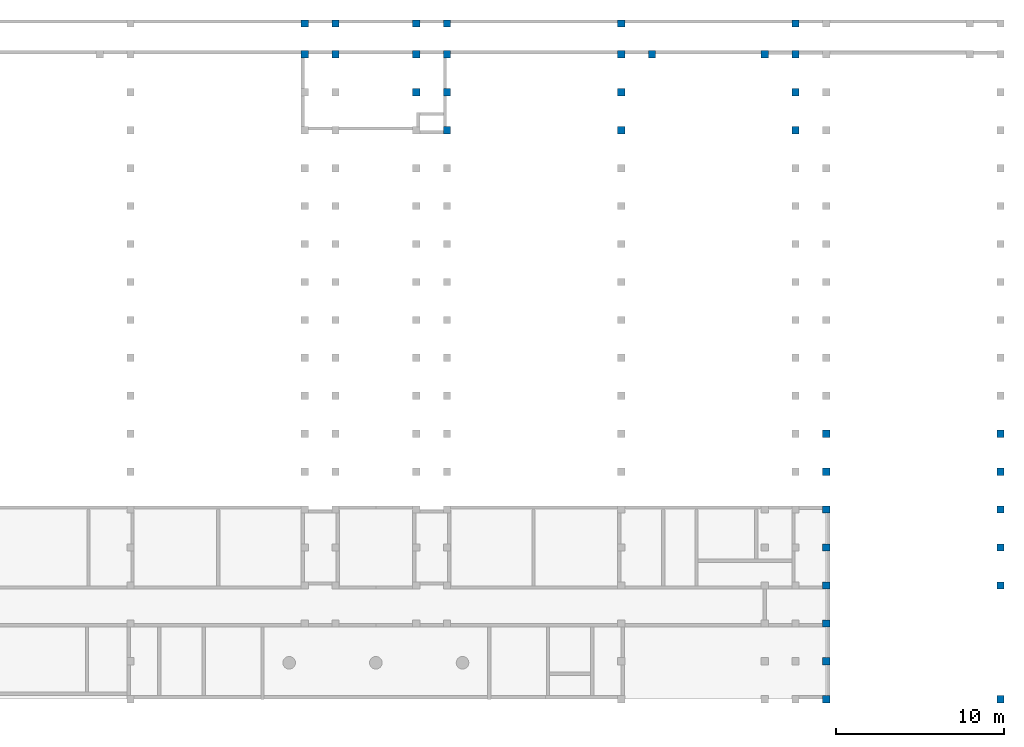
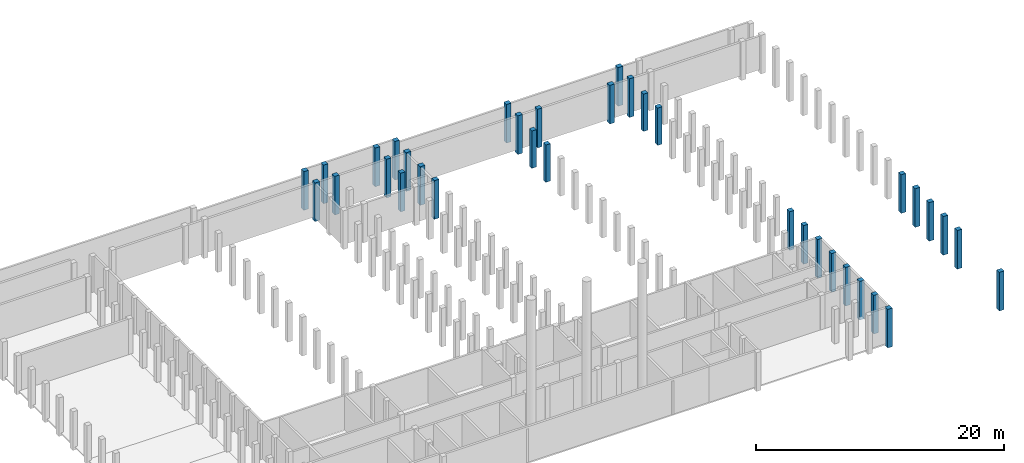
# One storey, part 6 of 9: 35 columns.
"""IFC2X3 building model written with IfcOpenShell, lengths in millimetres."""

from ifc_helpers import new_model, entity, si_unit, converted_unit, derived_unit, direction, frame, frame_2d, origin, origin_2d_with_axis, place, context, subcontext, project, spatial, rectangle, extrude, source, transform, mapped, material, type_object, type_shapes, element, save


model = new_model("IFC2X3")

# Units and contexts
model_context = context("Model", 3, precision=0.01, world=origin(), true_north=direction((6.12303176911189e-17, 1.0)))
body_context = subcontext(model_context, "Body", "Model", "MODEL_VIEW")
ifc_project = project(units=[si_unit("LENGTHUNIT", "METRE", prefix="MILLI"), si_unit("AREAUNIT", "SQUARE_METRE"), si_unit("VOLUMEUNIT", "CUBIC_METRE"), converted_unit("PLANEANGLEUNIT", "DEGREE", entity("IfcRatioMeasure", 0.0174532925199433), si_unit("PLANEANGLEUNIT", "RADIAN"), dimensions=[0, 0, 0, 0, 0, 0, 0]), si_unit("MASSUNIT", "GRAM", prefix="KILO"), derived_unit("MASSDENSITYUNIT", [(si_unit("MASSUNIT", "GRAM", prefix="KILO"), 1), (si_unit("LENGTHUNIT", "METRE"), -3)]), derived_unit("MOMENTOFINERTIAUNIT", [(si_unit("LENGTHUNIT", "METRE"), 4)]), si_unit("TIMEUNIT", "SECOND"), si_unit("FREQUENCYUNIT", "HERTZ"), si_unit("THERMODYNAMICTEMPERATUREUNIT", "DEGREE_CELSIUS"), derived_unit("THERMALTRANSMITTANCEUNIT", [(si_unit("MASSUNIT", "GRAM", prefix="KILO"), 1), (si_unit("THERMODYNAMICTEMPERATUREUNIT", "KELVIN"), -1), (si_unit("TIMEUNIT", "SECOND"), -3)]), derived_unit("VOLUMETRICFLOWRATEUNIT", [(si_unit("LENGTHUNIT", "METRE"), 3), (si_unit("TIMEUNIT", "SECOND"), -1)]), si_unit("ELECTRICCURRENTUNIT", "AMPERE"), si_unit("ELECTRICVOLTAGEUNIT", "VOLT"), si_unit("POWERUNIT", "WATT"), si_unit("FORCEUNIT", "NEWTON", prefix="KILO"), si_unit("ILLUMINANCEUNIT", "LUX"), si_unit("LUMINOUSFLUXUNIT", "LUMEN"), si_unit("LUMINOUSINTENSITYUNIT", "CANDELA"), derived_unit("USERDEFINED", [(si_unit("MASSUNIT", "GRAM", prefix="KILO"), -1), (si_unit("LENGTHUNIT", "METRE"), -2), (si_unit("TIMEUNIT", "SECOND"), 3), (si_unit("LUMINOUSFLUXUNIT", "LUMEN"), 1)]), derived_unit("LINEARVELOCITYUNIT", [(si_unit("LENGTHUNIT", "METRE"), 1), (si_unit("TIMEUNIT", "SECOND"), -1)]), si_unit("PRESSUREUNIT", "PASCAL"), derived_unit("USERDEFINED", [(si_unit("LENGTHUNIT", "METRE"), -2), (si_unit("MASSUNIT", "GRAM", prefix="KILO"), 1), (si_unit("TIMEUNIT", "SECOND"), -2)]), derived_unit("LINEARFORCEUNIT", [(si_unit("MASSUNIT", "GRAM", prefix="KILO"), 1), (si_unit("LENGTHUNIT", "METRE"), 1), (si_unit("TIMEUNIT", "SECOND"), -2), (si_unit("LENGTHUNIT", "METRE"), -1)]), derived_unit("PLANARFORCEUNIT", [(si_unit("MASSUNIT", "GRAM", prefix="KILO"), 1), (si_unit("LENGTHUNIT", "METRE"), 1), (si_unit("TIMEUNIT", "SECOND"), -2), (si_unit("LENGTHUNIT", "METRE"), -2)])], contexts=[model_context])

# Site, building, storey
site_placement = place(None, frame((10627.5135316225, 21939.0796949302, 0.0)))
site = spatial("IfcSite", under=ifc_project, at=site_placement, Name="Default", CompositionType="ELEMENT")
building_placement = place(site_placement, origin())
building = spatial("IfcBuilding", under=site, at=building_placement, CompositionType="ELEMENT")
storey_placement = place(building_placement, frame((0.0, 0.0, -3500.0)))
storey = spatial("IfcBuildingStorey", under=building, at=storey_placement, Name="R-1", CompositionType="ELEMENT", Elevation=-3500.0)

# Columns
ifc_material = material(Name="Concrete, Precast Smooth, Light Grey")
column_type_1 = type_object("IfcColumnType", Name="M_Precast-Square Column:430x430", PredefinedType="COLUMN", material=ifc_material)
shared_shape_1 = source(origin(), body_context, "Body", "SweptSolid", [
    extrude(rectangle(XDim=430.0, YDim=429.999999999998, at=frame_2d((2.1600499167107e-12, 0.0), x_axis=(1.0, 0.0))), frame((22342.4864683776, 16480.9203050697, -3800.0), z_axis=(0.0, 0.0, 1.0), x_axis=(0.0, -1.0, 0.0)), (0.0, 0.0, 1.0), 3800.0),
])
type_shapes(column_type_1, [shared_shape_1])
column_1_placement = place(storey_placement, frame((0.0, 0.0, 3500.0)))
element("IfcColumn", 1, at=column_1_placement, inside=storey, type_object=column_type_1, material=ifc_material, Name="M_Precast-Square Column:430x430", ObjectType="M_Precast-Square Column:430x430", context=body_context, shape_type="MappedRepresentation", body=[
    mapped(shared_shape_1, transform((0.0, 0.0, 0.0), scale=1.0)),
])
column_type_2 = type_object("IfcColumnType", Name="M_Precast-Square Column:430x430", PredefinedType="COLUMN", material=ifc_material)
shared_shape_2 = source(origin(), body_context, "Body", "SweptSolid", [
    extrude(rectangle(XDim=430.0, YDim=429.999999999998, at=frame_2d((2.1600499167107e-12, 0.0), x_axis=(1.0, 0.0))), frame((22342.4864683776, 18310.9203050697, -3800.0), z_axis=(0.0, 0.0, 1.0), x_axis=(0.0, -1.0, 0.0)), (0.0, 0.0, 1.0), 3800.0),
])
type_shapes(column_type_2, [shared_shape_2])
column_2_placement = place(storey_placement, frame((0.0, 0.0, 3500.0)))
element("IfcColumn", 2, at=column_2_placement, inside=storey, type_object=column_type_2, material=ifc_material, Name="M_Precast-Square Column:430x430", ObjectType="M_Precast-Square Column:430x430", context=body_context, shape_type="MappedRepresentation", body=[
    mapped(shared_shape_2, transform((0.0, 0.0, 0.0), scale=1.0)),
])
column_type_3 = type_object("IfcColumnType", Name="M_Precast-Square Column:430x430", PredefinedType="COLUMN", material=ifc_material)
shared_shape_3 = source(origin(), body_context, "Body", "SweptSolid", [
    extrude(rectangle(XDim=430.0, YDim=429.999999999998, at=origin_2d_with_axis()), frame((24172.4864683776, 16480.9203050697, -3800.0), z_axis=(0.0, 0.0, 1.0), x_axis=(0.0, -1.0, 0.0)), (0.0, 0.0, 1.0), 3800.0),
])
type_shapes(column_type_3, [shared_shape_3])
column_3_placement = place(storey_placement, frame((0.0, 0.0, 3500.0)))
element("IfcColumn", 3, at=column_3_placement, inside=storey, type_object=column_type_3, material=ifc_material, Name="M_Precast-Square Column:430x430", ObjectType="M_Precast-Square Column:430x430", context=body_context, shape_type="MappedRepresentation", body=[
    mapped(shared_shape_3, transform((0.0, 0.0, 0.0), scale=1.0)),
])
column_type_4 = type_object("IfcColumnType", Name="M_Precast-Square Column:430x430", PredefinedType="COLUMN", material=ifc_material)
shared_shape_4 = source(origin(), body_context, "Body", "SweptSolid", [
    extrude(rectangle(XDim=430.0, YDim=429.999999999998, at=origin_2d_with_axis()), frame((24172.4864683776, 18310.9203050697, -3800.0), z_axis=(0.0, 0.0, 1.0), x_axis=(0.0, -1.0, 0.0)), (0.0, 0.0, 1.0), 3800.0),
])
type_shapes(column_type_4, [shared_shape_4])
column_4_placement = place(storey_placement, frame((0.0, 0.0, 3500.0)))
element("IfcColumn", 4, at=column_4_placement, inside=storey, type_object=column_type_4, material=ifc_material, Name="M_Precast-Square Column:430x430", ObjectType="M_Precast-Square Column:430x430", context=body_context, shape_type="MappedRepresentation", body=[
    mapped(shared_shape_4, transform((0.0, 0.0, 0.0), scale=1.0)),
])
column_type_5 = type_object("IfcColumnType", Name="M_Precast-Square Column:430x430", PredefinedType="COLUMN", material=ifc_material)
shared_shape_5 = source(origin(), body_context, "Body", "SweptSolid", [
    extrude(rectangle(XDim=430.0, YDim=430.000000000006, at=frame_2d((-1.08002495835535e-12, 0.0), x_axis=(1.0, 0.0))), frame((51572.4864683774, 16480.9203050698, -3800.0), z_axis=(0.0, 0.0, 1.0), x_axis=(0.0, -1.0, 0.0)), (0.0, 0.0, 1.0), 3800.0),
])
type_shapes(column_type_5, [shared_shape_5])
column_5_placement = place(storey_placement, frame((0.0, 0.0, 3500.0)))
element("IfcColumn", 5, at=column_5_placement, inside=storey, type_object=column_type_5, material=ifc_material, Name="M_Precast-Square Column:430x430", ObjectType="M_Precast-Square Column:430x430", context=body_context, shape_type="MappedRepresentation", body=[
    mapped(shared_shape_5, transform((0.0, 0.0, 0.0), scale=1.0)),
])
column_type_6 = type_object("IfcColumnType", Name="M_Precast-Square Column:430x430", PredefinedType="COLUMN", material=ifc_material)
shared_shape_6 = source(origin(), body_context, "Body", "SweptSolid", [
    extrude(rectangle(XDim=430.0, YDim=430.000000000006, at=frame_2d((1.08002495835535e-12, -8.66862137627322e-12), x_axis=(1.0, 0.0))), frame((51572.4864683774, 14220.9203050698, -3800.0), z_axis=(0.0, 0.0, 1.0), x_axis=(0.0, -1.0, 0.0)), (0.0, 0.0, 1.0), 3670.0),
])
type_shapes(column_type_6, [shared_shape_6])
column_6_placement = place(storey_placement, frame((0.0, 0.0, 3500.0)))
element("IfcColumn", 6, at=column_6_placement, inside=storey, type_object=column_type_6, material=ifc_material, Name="M_Precast-Square Column:430x430", ObjectType="M_Precast-Square Column:430x430", context=body_context, shape_type="MappedRepresentation", body=[
    mapped(shared_shape_6, transform((0.0, 0.0, 0.0), scale=1.0)),
])
column_type_7 = type_object("IfcColumnType", Name="M_Precast-Square Column:430x430", PredefinedType="COLUMN", material=ifc_material)
shared_shape_7 = source(origin(), body_context, "Body", "SweptSolid", [
    extrude(rectangle(XDim=430.0, YDim=430.000000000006, at=frame_2d((-1.08002495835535e-12, 0.0), x_axis=(1.0, 0.0))), frame((51572.4864683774, 18310.9203050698, -3800.0), z_axis=(0.0, 0.0, 1.0), x_axis=(0.0, -1.0, 0.0)), (0.0, 0.0, 1.0), 3800.0),
])
type_shapes(column_type_7, [shared_shape_7])
column_7_placement = place(storey_placement, frame((0.0, 0.0, 3500.0)))
element("IfcColumn", 7, at=column_7_placement, inside=storey, type_object=column_type_7, material=ifc_material, Name="M_Precast-Square Column:430x430", ObjectType="M_Precast-Square Column:430x430", context=body_context, shape_type="MappedRepresentation", body=[
    mapped(shared_shape_7, transform((0.0, 0.0, 0.0), scale=1.0)),
])
column_type_8 = type_object("IfcColumnType", Name="M_Precast-Square Column:430x430", PredefinedType="COLUMN", material=ifc_material)
shared_shape_8 = source(origin(), body_context, "Body", "SweptSolid", [
    extrude(rectangle(XDim=430.0, YDim=430.000000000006, at=frame_2d((-1.08002495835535e-12, -8.66862137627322e-12), x_axis=(1.0, 0.0))), frame((51572.4864683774, 11960.9203050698, -3800.0), z_axis=(0.0, 0.0, 1.0), x_axis=(0.0, -1.0, 0.0)), (0.0, 0.0, 1.0), 3670.0),
])
type_shapes(column_type_8, [shared_shape_8])
column_8_placement = place(storey_placement, frame((0.0, 0.0, 3500.0)))
element("IfcColumn", 8, at=column_8_placement, inside=storey, type_object=column_type_8, material=ifc_material, Name="M_Precast-Square Column:430x430", ObjectType="M_Precast-Square Column:430x430", context=body_context, shape_type="MappedRepresentation", body=[
    mapped(shared_shape_8, transform((0.0, 0.0, 0.0), scale=1.0)),
])
column_type_9 = type_object("IfcColumnType", Name="M_Precast-Square Column:430x430", PredefinedType="COLUMN", material=ifc_material)
shared_shape_9 = source(origin(), body_context, "Body", "SweptSolid", [
    extrude(rectangle(XDim=430.0, YDim=430.000000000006, at=frame_2d((-1.08002495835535e-12, 0.0), x_axis=(1.0, 0.0))), frame((49742.4864683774, 16480.9203050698, -3800.0), z_axis=(0.0, 0.0, 1.0), x_axis=(0.0, -1.0, 0.0)), (0.0, 0.0, 1.0), 3800.0),
])
type_shapes(column_type_9, [shared_shape_9])
column_9_placement = place(storey_placement, frame((0.0, 0.0, 3500.0)))
element("IfcColumn", 9, at=column_9_placement, inside=storey, type_object=column_type_9, material=ifc_material, Name="M_Precast-Square Column:430x430", ObjectType="M_Precast-Square Column:430x430", context=body_context, shape_type="MappedRepresentation", body=[
    mapped(shared_shape_9, transform((0.0, 0.0, 0.0), scale=1.0)),
])
column_type_10 = type_object("IfcColumnType", Name="M_Precast-Square Column:430x430", PredefinedType="COLUMN", material=ifc_material)
shared_shape_10 = source(origin(), body_context, "Body", "SweptSolid", [
    extrude(rectangle(XDim=430.0, YDim=430.000000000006, at=frame_2d((-1.08002495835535e-12, 0.0), x_axis=(1.0, 0.0))), frame((41192.4864683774, 16480.9203050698, -3800.0), z_axis=(0.0, 0.0, 1.0), x_axis=(0.0, -1.0, 0.0)), (0.0, 0.0, 1.0), 3800.0),
])
type_shapes(column_type_10, [shared_shape_10])
column_10_placement = place(storey_placement, frame((0.0, 0.0, 3500.0)))
element("IfcColumn", 10, at=column_10_placement, inside=storey, type_object=column_type_10, material=ifc_material, Name="M_Precast-Square Column:430x430", ObjectType="M_Precast-Square Column:430x430", context=body_context, shape_type="MappedRepresentation", body=[
    mapped(shared_shape_10, transform((0.0, 0.0, 0.0), scale=1.0)),
])
column_type_11 = type_object("IfcColumnType", Name="M_Precast-Square Column:430x430", PredefinedType="COLUMN", material=ifc_material)
shared_shape_11 = source(origin(), body_context, "Body", "SweptSolid", [
    extrude(rectangle(XDim=430.0, YDim=430.000000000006, at=frame_2d((1.08002495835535e-12, 0.0), x_axis=(1.0, 0.0))), frame((41192.4864683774, 14220.9203050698, -3800.0), z_axis=(0.0, 0.0, 1.0), x_axis=(0.0, -1.0, 0.0)), (0.0, 0.0, 1.0), 3670.0),
])
type_shapes(column_type_11, [shared_shape_11])
column_11_placement = place(storey_placement, frame((0.0, 0.0, 3500.0)))
element("IfcColumn", 11, at=column_11_placement, inside=storey, type_object=column_type_11, material=ifc_material, Name="M_Precast-Square Column:430x430", ObjectType="M_Precast-Square Column:430x430", context=body_context, shape_type="MappedRepresentation", body=[
    mapped(shared_shape_11, transform((0.0, 0.0, 0.0), scale=1.0)),
])
column_type_12 = type_object("IfcColumnType", Name="M_Precast-Square Column:430x430", PredefinedType="COLUMN", material=ifc_material)
shared_shape_12 = source(origin(), body_context, "Body", "SweptSolid", [
    extrude(rectangle(XDim=430.0, YDim=430.000000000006, at=frame_2d((-1.08002495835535e-12, 0.0), x_axis=(1.0, 0.0))), frame((41192.4864683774, 18310.9203050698, -3800.0), z_axis=(0.0, 0.0, 1.0), x_axis=(0.0, -1.0, 0.0)), (0.0, 0.0, 1.0), 3800.0),
])
type_shapes(column_type_12, [shared_shape_12])
column_12_placement = place(storey_placement, frame((0.0, 0.0, 3500.0)))
element("IfcColumn", 12, at=column_12_placement, inside=storey, type_object=column_type_12, material=ifc_material, Name="M_Precast-Square Column:430x430", ObjectType="M_Precast-Square Column:430x430", context=body_context, shape_type="MappedRepresentation", body=[
    mapped(shared_shape_12, transform((0.0, 0.0, 0.0), scale=1.0)),
])
column_type_13 = type_object("IfcColumnType", Name="M_Precast-Square Column:430x430", PredefinedType="COLUMN", material=ifc_material)
shared_shape_13 = source(origin(), body_context, "Body", "SweptSolid", [
    extrude(rectangle(XDim=430.0, YDim=430.000000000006, at=frame_2d((-1.08002495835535e-12, -8.66862137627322e-12), x_axis=(1.0, 0.0))), frame((41192.4864683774, 11960.9203050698, -3800.0), z_axis=(0.0, 0.0, 1.0), x_axis=(0.0, -1.0, 0.0)), (0.0, 0.0, 1.0), 3670.0),
])
type_shapes(column_type_13, [shared_shape_13])
column_13_placement = place(storey_placement, frame((0.0, 0.0, 3500.0)))
element("IfcColumn", 13, at=column_13_placement, inside=storey, type_object=column_type_13, material=ifc_material, Name="M_Precast-Square Column:430x430", ObjectType="M_Precast-Square Column:430x430", context=body_context, shape_type="MappedRepresentation", body=[
    mapped(shared_shape_13, transform((0.0, 0.0, 0.0), scale=1.0)),
])
column_type_14 = type_object("IfcColumnType", Name="M_Precast-Square Column:430x430", PredefinedType="COLUMN", material=ifc_material)
shared_shape_14 = source(origin(), body_context, "Body", "SweptSolid", [
    extrude(rectangle(XDim=430.0, YDim=429.999999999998, at=frame_2d((-1.08002495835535e-12, 4.33431068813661e-12), x_axis=(1.0, 0.0))), frame((30812.4864683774, 16480.9203050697, -3800.0), z_axis=(0.0, 0.0, 1.0), x_axis=(0.0, -1.0, 0.0)), (0.0, 0.0, 1.0), 3800.0),
])
type_shapes(column_type_14, [shared_shape_14])
column_14_placement = place(storey_placement, frame((0.0, 0.0, 3500.0)))
element("IfcColumn", 14, at=column_14_placement, inside=storey, type_object=column_type_14, material=ifc_material, Name="M_Precast-Square Column:430x430", ObjectType="M_Precast-Square Column:430x430", context=body_context, shape_type="MappedRepresentation", body=[
    mapped(shared_shape_14, transform((0.0, 0.0, 0.0), scale=1.0)),
])
column_type_15 = type_object("IfcColumnType", Name="M_Precast-Square Column:430x430", PredefinedType="COLUMN", material=ifc_material)
shared_shape_15 = source(origin(), body_context, "Body", "SweptSolid", [
    extrude(rectangle(XDim=430.0, YDim=429.999999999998, at=frame_2d((1.08002495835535e-12, 0.0), x_axis=(1.0, 0.0))), frame((30812.4864683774, 14220.9203050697, -3800.0), z_axis=(0.0, 0.0, 1.0), x_axis=(0.0, -1.0, 0.0)), (0.0, 0.0, 1.0), 3800.0),
])
type_shapes(column_type_15, [shared_shape_15])
column_15_placement = place(storey_placement, frame((0.0, 0.0, 3500.0)))
element("IfcColumn", 15, at=column_15_placement, inside=storey, type_object=column_type_15, material=ifc_material, Name="M_Precast-Square Column:430x430", ObjectType="M_Precast-Square Column:430x430", context=body_context, shape_type="MappedRepresentation", body=[
    mapped(shared_shape_15, transform((0.0, 0.0, 0.0), scale=1.0)),
])
column_type_16 = type_object("IfcColumnType", Name="M_Precast-Square Column:430x430", PredefinedType="COLUMN", material=ifc_material)
shared_shape_16 = source(origin(), body_context, "Body", "SweptSolid", [
    extrude(rectangle(XDim=430.0, YDim=429.999999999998, at=frame_2d((-1.08002495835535e-12, 4.33431068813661e-12), x_axis=(1.0, 0.0))), frame((30812.4864683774, 18310.9203050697, -3800.0), z_axis=(0.0, 0.0, 1.0), x_axis=(0.0, -1.0, 0.0)), (0.0, 0.0, 1.0), 3800.0),
])
type_shapes(column_type_16, [shared_shape_16])
column_16_placement = place(storey_placement, frame((0.0, 0.0, 3500.0)))
element("IfcColumn", 16, at=column_16_placement, inside=storey, type_object=column_type_16, material=ifc_material, Name="M_Precast-Square Column:430x430", ObjectType="M_Precast-Square Column:430x430", context=body_context, shape_type="MappedRepresentation", body=[
    mapped(shared_shape_16, transform((0.0, 0.0, 0.0), scale=1.0)),
])
column_type_17 = type_object("IfcColumnType", Name="M_Precast-Square Column:430x430", PredefinedType="COLUMN", material=ifc_material)
shared_shape_17 = source(origin(), body_context, "Body", "SweptSolid", [
    extrude(rectangle(XDim=430.0, YDim=429.999999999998, at=frame_2d((1.08002495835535e-12, 0.0), x_axis=(1.0, 0.0))), frame((30812.4864683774, 11960.9203050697, -3800.0), z_axis=(0.0, 0.0, 1.0), x_axis=(0.0, -1.0, 0.0)), (0.0, 0.0, 1.0), 3800.0),
])
type_shapes(column_type_17, [shared_shape_17])
column_17_placement = place(storey_placement, frame((0.0, 0.0, 3500.0)))
element("IfcColumn", 17, at=column_17_placement, inside=storey, type_object=column_type_17, material=ifc_material, Name="M_Precast-Square Column:430x430", ObjectType="M_Precast-Square Column:430x430", context=body_context, shape_type="MappedRepresentation", body=[
    mapped(shared_shape_17, transform((0.0, 0.0, 0.0), scale=1.0)),
])
column_type_18 = type_object("IfcColumnType", Name="M_Precast-Square Column:430x430", PredefinedType="COLUMN", material=ifc_material)
shared_shape_18 = source(origin(), body_context, "Body", "SweptSolid", [
    extrude(rectangle(XDim=430.0, YDim=429.999999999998, at=frame_2d((-1.08002495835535e-12, 4.33431068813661e-12), x_axis=(1.0, 0.0))), frame((28982.4864683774, 16480.9203050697, -3800.0), z_axis=(0.0, 0.0, 1.0), x_axis=(0.0, -1.0, 0.0)), (0.0, 0.0, 1.0), 3800.0),
])
type_shapes(column_type_18, [shared_shape_18])
column_18_placement = place(storey_placement, frame((0.0, 0.0, 3500.0)))
element("IfcColumn", 18, at=column_18_placement, inside=storey, type_object=column_type_18, material=ifc_material, Name="M_Precast-Square Column:430x430", ObjectType="M_Precast-Square Column:430x430", context=body_context, shape_type="MappedRepresentation", body=[
    mapped(shared_shape_18, transform((0.0, 0.0, 0.0), scale=1.0)),
])
column_type_19 = type_object("IfcColumnType", Name="M_Precast-Square Column:430x430", PredefinedType="COLUMN", material=ifc_material)
shared_shape_19 = source(origin(), body_context, "Body", "SweptSolid", [
    extrude(rectangle(XDim=430.0, YDim=429.999999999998, at=frame_2d((-1.08002495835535e-12, 0.0), x_axis=(1.0, 0.0))), frame((28982.4864683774, 14220.9203050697, -3800.0), z_axis=(0.0, 0.0, 1.0), x_axis=(0.0, -1.0, 0.0)), (0.0, 0.0, 1.0), 3800.0),
])
type_shapes(column_type_19, [shared_shape_19])
column_19_placement = place(storey_placement, frame((0.0, 0.0, 3500.0)))
element("IfcColumn", 19, at=column_19_placement, inside=storey, type_object=column_type_19, material=ifc_material, Name="M_Precast-Square Column:430x430", ObjectType="M_Precast-Square Column:430x430", context=body_context, shape_type="MappedRepresentation", body=[
    mapped(shared_shape_19, transform((0.0, 0.0, 0.0), scale=1.0)),
])
column_type_20 = type_object("IfcColumnType", Name="M_Precast-Square Column:430x430", PredefinedType="COLUMN", material=ifc_material)
shared_shape_20 = source(origin(), body_context, "Body", "SweptSolid", [
    extrude(rectangle(XDim=430.0, YDim=429.999999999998, at=frame_2d((-1.08002495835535e-12, 4.33431068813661e-12), x_axis=(1.0, 0.0))), frame((28982.4864683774, 18310.9203050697, -3800.0), z_axis=(0.0, 0.0, 1.0), x_axis=(0.0, -1.0, 0.0)), (0.0, 0.0, 1.0), 3800.0),
])
type_shapes(column_type_20, [shared_shape_20])
column_20_placement = place(storey_placement, frame((0.0, 0.0, 3500.0)))
element("IfcColumn", 20, at=column_20_placement, inside=storey, type_object=column_type_20, material=ifc_material, Name="M_Precast-Square Column:430x430", ObjectType="M_Precast-Square Column:430x430", context=body_context, shape_type="MappedRepresentation", body=[
    mapped(shared_shape_20, transform((0.0, 0.0, 0.0), scale=1.0)),
])
column_type_21 = type_object("IfcColumnType", Name="M_Precast-Square Column:430x430", PredefinedType="COLUMN", material=ifc_material)
shared_shape_21 = source(origin(), body_context, "Body", "SweptSolid", [
    extrude(rectangle(XDim=430.0, YDim=430.000000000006, at=origin_2d_with_axis()), frame((53402.4864683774, -6119.07969493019, -3800.0), z_axis=(0.0, 0.0, 1.0), x_axis=(0.0, -1.0, 0.0)), (0.0, 0.0, 1.0), 3800.0),
])
type_shapes(column_type_21, [shared_shape_21])
column_21_placement = place(storey_placement, frame((0.0, 0.0, 3500.0)))
element("IfcColumn", 21, at=column_21_placement, inside=storey, type_object=column_type_21, material=ifc_material, Name="M_Precast-Square Column:430x430", ObjectType="M_Precast-Square Column:430x430", context=body_context, shape_type="MappedRepresentation", body=[
    mapped(shared_shape_21, transform((0.0, 0.0, 0.0), scale=1.0)),
])
column_type_22 = type_object("IfcColumnType", Name="M_Precast-Square Column:430x430", PredefinedType="COLUMN", material=ifc_material)
shared_shape_22 = source(origin(), body_context, "Body", "SweptSolid", [
    extrude(rectangle(XDim=430.0, YDim=430.000000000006, at=origin_2d_with_axis()), frame((63782.4864683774, -6119.07969493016, -3800.0), z_axis=(0.0, 0.0, 1.0), x_axis=(0.0, -1.0, 0.0)), (0.0, 0.0, 1.0), 3800.0),
])
type_shapes(column_type_22, [shared_shape_22])
column_22_placement = place(storey_placement, frame((0.0, 0.0, 3500.0)))
element("IfcColumn", 22, at=column_22_placement, inside=storey, type_object=column_type_22, material=ifc_material, Name="M_Precast-Square Column:430x430", ObjectType="M_Precast-Square Column:430x430", context=body_context, shape_type="MappedRepresentation", body=[
    mapped(shared_shape_22, transform((0.0, 0.0, 0.0), scale=1.0)),
])
column_type_23 = type_object("IfcColumnType", Name="M_Precast-Square Column:430x430", PredefinedType="COLUMN", material=ifc_material)
shared_shape_23 = source(origin(), body_context, "Body", "SweptSolid", [
    extrude(rectangle(XDim=430.0, YDim=430.000000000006, at=frame_2d((0.0, -8.66862137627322e-12), x_axis=(1.0, 0.0))), frame((53402.4864683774, -8379.07969493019, -3800.0), z_axis=(0.0, 0.0, 1.0), x_axis=(0.0, -1.0, 0.0)), (0.0, 0.0, 1.0), 3800.0),
])
type_shapes(column_type_23, [shared_shape_23])
column_23_placement = place(storey_placement, frame((0.0, 0.0, 3500.0)))
element("IfcColumn", 23, at=column_23_placement, inside=storey, type_object=column_type_23, material=ifc_material, Name="M_Precast-Square Column:430x430", ObjectType="M_Precast-Square Column:430x430", context=body_context, shape_type="MappedRepresentation", body=[
    mapped(shared_shape_23, transform((0.0, 0.0, 0.0), scale=1.0)),
])
column_type_24 = type_object("IfcColumnType", Name="M_Precast-Square Column:430x430", PredefinedType="COLUMN", material=ifc_material)
shared_shape_24 = source(origin(), body_context, "Body", "SweptSolid", [
    extrude(rectangle(XDim=430.0, YDim=430.000000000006, at=frame_2d((0.0, -8.66862137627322e-12), x_axis=(1.0, 0.0))), frame((63782.4864683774, -8379.07969493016, -3800.0), z_axis=(0.0, 0.0, 1.0), x_axis=(0.0, -1.0, 0.0)), (0.0, 0.0, 1.0), 3800.0),
])
type_shapes(column_type_24, [shared_shape_24])
column_24_placement = place(storey_placement, frame((0.0, 0.0, 3500.0)))
element("IfcColumn", 24, at=column_24_placement, inside=storey, type_object=column_type_24, material=ifc_material, Name="M_Precast-Square Column:430x430", ObjectType="M_Precast-Square Column:430x430", context=body_context, shape_type="MappedRepresentation", body=[
    mapped(shared_shape_24, transform((0.0, 0.0, 0.0), scale=1.0)),
])
column_type_25 = type_object("IfcColumnType", Name="M_Precast-Square Column:430x430", PredefinedType="COLUMN", material=ifc_material)
shared_shape_25 = source(origin(), body_context, "Body", "SweptSolid", [
    extrude(rectangle(XDim=430.0, YDim=430.000000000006, at=frame_2d((1.08002495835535e-12, -8.66862137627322e-12), x_axis=(1.0, 0.0))), frame((53402.4864683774, -10639.0796949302, -3800.0), z_axis=(0.0, 0.0, 1.0), x_axis=(0.0, -1.0, 0.0)), (0.0, 0.0, 1.0), 3800.0),
])
type_shapes(column_type_25, [shared_shape_25])
column_25_placement = place(storey_placement, frame((0.0, 0.0, 3500.0)))
element("IfcColumn", 25, at=column_25_placement, inside=storey, type_object=column_type_25, material=ifc_material, Name="M_Precast-Square Column:430x430", ObjectType="M_Precast-Square Column:430x430", context=body_context, shape_type="MappedRepresentation", body=[
    mapped(shared_shape_25, transform((0.0, 0.0, 0.0), scale=1.0)),
])
column_type_26 = type_object("IfcColumnType", Name="M_Precast-Square Column:430x430", PredefinedType="COLUMN", material=ifc_material)
shared_shape_26 = source(origin(), body_context, "Body", "SweptSolid", [
    extrude(rectangle(XDim=430.0, YDim=430.000000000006, at=frame_2d((-1.08002495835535e-12, -8.66862137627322e-12), x_axis=(1.0, 0.0))), frame((63782.4864683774, -10639.0796949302, -3800.0), z_axis=(0.0, 0.0, 1.0), x_axis=(0.0, -1.0, 0.0)), (0.0, 0.0, 1.0), 3800.0),
])
type_shapes(column_type_26, [shared_shape_26])
column_26_placement = place(storey_placement, frame((0.0, 0.0, 3500.0)))
element("IfcColumn", 26, at=column_26_placement, inside=storey, type_object=column_type_26, material=ifc_material, Name="M_Precast-Square Column:430x430", ObjectType="M_Precast-Square Column:430x430", context=body_context, shape_type="MappedRepresentation", body=[
    mapped(shared_shape_26, transform((0.0, 0.0, 0.0), scale=1.0)),
])
column_type_27 = type_object("IfcColumnType", Name="M_Precast-Square Column:430x430", PredefinedType="COLUMN", material=ifc_material)
shared_shape_27 = source(origin(), body_context, "Body", "SweptSolid", [
    extrude(rectangle(XDim=430.0, YDim=430.000000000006, at=frame_2d((1.08002495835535e-12, 0.0), x_axis=(1.0, 0.0))), frame((53402.4864683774, -12899.0796949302, -3800.0), z_axis=(0.0, 0.0, 1.0), x_axis=(0.0, -1.0, 0.0)), (0.0, 0.0, 1.0), 3800.0),
])
type_shapes(column_type_27, [shared_shape_27])
column_27_placement = place(storey_placement, frame((0.0, 0.0, 3500.0)))
element("IfcColumn", 27, at=column_27_placement, inside=storey, type_object=column_type_27, material=ifc_material, Name="M_Precast-Square Column:430x430", ObjectType="M_Precast-Square Column:430x430", context=body_context, shape_type="MappedRepresentation", body=[
    mapped(shared_shape_27, transform((0.0, 0.0, 0.0), scale=1.0)),
])
column_type_28 = type_object("IfcColumnType", Name="M_Precast-Square Column:430x430", PredefinedType="COLUMN", material=ifc_material)
shared_shape_28 = source(origin(), body_context, "Body", "SweptSolid", [
    extrude(rectangle(XDim=430.0, YDim=430.000000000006, at=frame_2d((-1.08002495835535e-12, 0.0), x_axis=(1.0, 0.0))), frame((63782.4864683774, -12899.0796949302, -3800.0), z_axis=(0.0, 0.0, 1.0), x_axis=(0.0, -1.0, 0.0)), (0.0, 0.0, 1.0), 3800.0),
])
type_shapes(column_type_28, [shared_shape_28])
column_28_placement = place(storey_placement, frame((0.0, 0.0, 3500.0)))
element("IfcColumn", 28, at=column_28_placement, inside=storey, type_object=column_type_28, material=ifc_material, Name="M_Precast-Square Column:430x430", ObjectType="M_Precast-Square Column:430x430", context=body_context, shape_type="MappedRepresentation", body=[
    mapped(shared_shape_28, transform((0.0, 0.0, 0.0), scale=1.0)),
])
column_type_29 = type_object("IfcColumnType", Name="M_Precast-Square Column:430x430", PredefinedType="COLUMN", material=ifc_material)
shared_shape_29 = source(origin(), body_context, "Body", "SweptSolid", [
    extrude(rectangle(XDim=430.0, YDim=430.000000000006, at=frame_2d((-1.08002495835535e-12, 0.0), x_axis=(1.0, 0.0))), frame((53402.4864683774, -15159.0796949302, -3800.0), z_axis=(0.0, 0.0, 1.0), x_axis=(0.0, -1.0, 0.0)), (0.0, 0.0, 1.0), 3800.0),
])
type_shapes(column_type_29, [shared_shape_29])
column_29_placement = place(storey_placement, frame((0.0, 0.0, 3500.0)))
element("IfcColumn", 29, at=column_29_placement, inside=storey, type_object=column_type_29, material=ifc_material, Name="M_Precast-Square Column:430x430", ObjectType="M_Precast-Square Column:430x430", context=body_context, shape_type="MappedRepresentation", body=[
    mapped(shared_shape_29, transform((0.0, 0.0, 0.0), scale=1.0)),
])
column_type_30 = type_object("IfcColumnType", Name="M_Precast-Square Column:430x430", PredefinedType="COLUMN", material=ifc_material)
shared_shape_30 = source(origin(), body_context, "Body", "SweptSolid", [
    extrude(rectangle(XDim=430.0, YDim=430.000000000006, at=frame_2d((1.08002495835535e-12, 0.0), x_axis=(1.0, 0.0))), frame((63782.4864683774, -15159.0796949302, -3800.0), z_axis=(0.0, 0.0, 1.0), x_axis=(0.0, -1.0, 0.0)), (0.0, 0.0, 1.0), 3800.0),
])
type_shapes(column_type_30, [shared_shape_30])
column_30_placement = place(storey_placement, frame((0.0, 0.0, 3500.0)))
element("IfcColumn", 30, at=column_30_placement, inside=storey, type_object=column_type_30, material=ifc_material, Name="M_Precast-Square Column:430x430", ObjectType="M_Precast-Square Column:430x430", context=body_context, shape_type="MappedRepresentation", body=[
    mapped(shared_shape_30, transform((0.0, 0.0, 0.0), scale=1.0)),
])
column_type_31 = type_object("IfcColumnType", Name="M_Precast-Square Column:430x430", PredefinedType="COLUMN", material=ifc_material)
shared_shape_31 = source(origin(), body_context, "Body", "SweptSolid", [
    extrude(rectangle(XDim=430.0, YDim=430.000000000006, at=frame_2d((1.08002495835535e-12, 0.0), x_axis=(1.0, 0.0))), frame((53402.4864683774, -17419.0796949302, -3800.0), z_axis=(0.0, 0.0, 1.0), x_axis=(0.0, -1.0, 0.0)), (0.0, 0.0, 1.0), 3800.0),
])
type_shapes(column_type_31, [shared_shape_31])
column_31_placement = place(storey_placement, frame((0.0, 0.0, 3500.0)))
element("IfcColumn", 31, at=column_31_placement, inside=storey, type_object=column_type_31, material=ifc_material, Name="M_Precast-Square Column:430x430", ObjectType="M_Precast-Square Column:430x430", context=body_context, shape_type="MappedRepresentation", body=[
    mapped(shared_shape_31, transform((0.0, 0.0, 0.0), scale=1.0)),
])
column_type_32 = type_object("IfcColumnType", Name="M_Precast-Square Column:430x430", PredefinedType="COLUMN", material=ifc_material)
shared_shape_32 = source(origin(), body_context, "Body", "SweptSolid", [
    extrude(rectangle(XDim=430.0, YDim=430.000000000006, at=frame_2d((-1.08002495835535e-12, 0.0), x_axis=(1.0, 0.0))), frame((53402.4864683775, -19679.0796949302, -3800.0), z_axis=(0.0, 0.0, 1.0), x_axis=(0.0, -1.0, 0.0)), (0.0, 0.0, 1.0), 3800.0),
])
type_shapes(column_type_32, [shared_shape_32])
column_32_placement = place(storey_placement, frame((0.0, 0.0, 3500.0)))
element("IfcColumn", 32, at=column_32_placement, inside=storey, type_object=column_type_32, material=ifc_material, Name="M_Precast-Square Column:430x430", ObjectType="M_Precast-Square Column:430x430", context=body_context, shape_type="MappedRepresentation", body=[
    mapped(shared_shape_32, transform((0.0, 0.0, 0.0), scale=1.0)),
])
column_type_33 = type_object("IfcColumnType", Name="M_Precast-Square Column:430x430", PredefinedType="COLUMN", material=ifc_material)
shared_shape_33 = source(origin(), body_context, "Body", "SweptSolid", [
    extrude(rectangle(XDim=429.999999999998, YDim=430.000000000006, at=origin_2d_with_axis()), frame((53402.4864683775, -21939.0796949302, -3800.0), z_axis=(0.0, 0.0, 1.0), x_axis=(0.0, -1.0, 0.0)), (0.0, 0.0, 1.0), 3800.0),
])
type_shapes(column_type_33, [shared_shape_33])
column_33_placement = place(storey_placement, frame((0.0, 0.0, 3500.0)))
element("IfcColumn", 33, at=column_33_placement, inside=storey, type_object=column_type_33, material=ifc_material, Name="M_Precast-Square Column:430x430", ObjectType="M_Precast-Square Column:430x430", context=body_context, shape_type="MappedRepresentation", body=[
    mapped(shared_shape_33, transform((0.0, 0.0, 0.0), scale=1.0)),
])
column_type_34 = type_object("IfcColumnType", Name="M_Precast-Square Column:430x430", PredefinedType="COLUMN", material=ifc_material)
shared_shape_34 = source(origin(), body_context, "Body", "SweptSolid", [
    extrude(rectangle(XDim=429.999999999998, YDim=430.000000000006, at=frame_2d((4.33431068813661e-12, 0.0), x_axis=(1.0, 0.0))), frame((63782.4864683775, -21939.0796949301, -3800.0), z_axis=(0.0, 0.0, 1.0), x_axis=(0.0, -1.0, 0.0)), (0.0, 0.0, 1.0), 3800.0),
])
type_shapes(column_type_34, [shared_shape_34])
column_34_placement = place(storey_placement, frame((0.0, 0.0, 3500.0)))
element("IfcColumn", 34, at=column_34_placement, inside=storey, type_object=column_type_34, material=ifc_material, Name="M_Precast-Square Column:430x430", ObjectType="M_Precast-Square Column:430x430", context=body_context, shape_type="MappedRepresentation", body=[
    mapped(shared_shape_34, transform((0.0, 0.0, 0.0), scale=1.0)),
])
column_type_35 = type_object("IfcColumnType", Name="M_Precast-Square Column:430x430", PredefinedType="COLUMN", material=ifc_material)
shared_shape_35 = source(origin(), body_context, "Body", "SweptSolid", [
    extrude(rectangle(XDim=430.0, YDim=430.000000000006, at=frame_2d((1.08002495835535e-12, 0.0), x_axis=(1.0, 0.0))), frame((43022.4864683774, 16480.9203050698, -3800.0), z_axis=(0.0, 0.0, 1.0), x_axis=(0.0, -1.0, 0.0)), (0.0, 0.0, 1.0), 3800.0),
])
type_shapes(column_type_35, [shared_shape_35])
column_35_placement = place(storey_placement, frame((0.0, 0.0, 3500.0)))
element("IfcColumn", 35, at=column_35_placement, inside=storey, type_object=column_type_35, material=ifc_material, Name="M_Precast-Square Column:430x430", ObjectType="M_Precast-Square Column:430x430", context=body_context, shape_type="MappedRepresentation", body=[
    mapped(shared_shape_35, transform((0.0, 0.0, 0.0), scale=1.0)),
])

save(model, "model.ifc")
